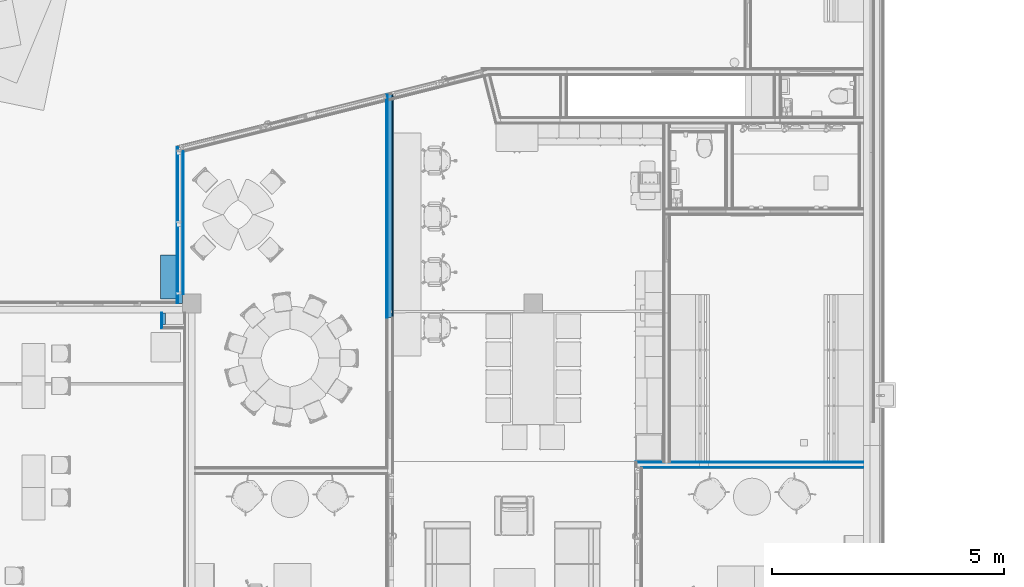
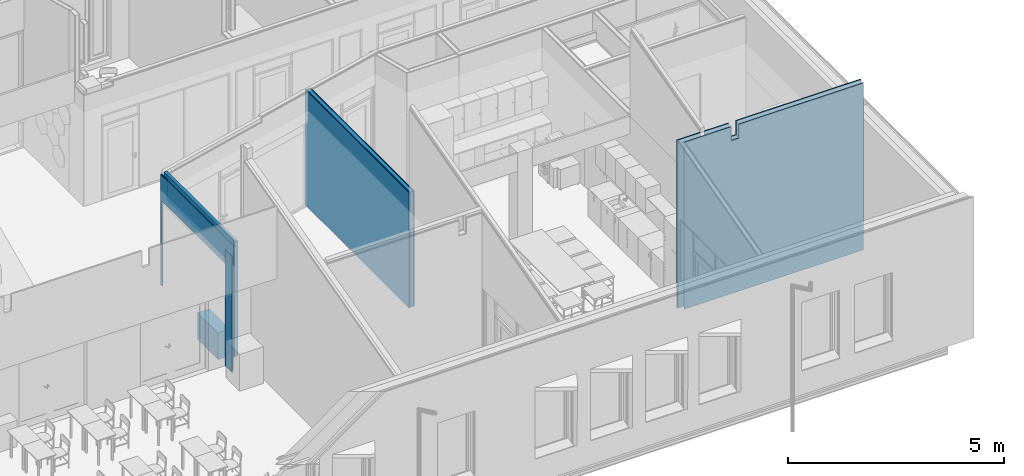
# One storey, part 71 of 153: 16 building element parts, 1 discrete accessory, 1 opening, 4 elements without a shape of their own.
"""IFC2X3 building model written with IfcOpenShell, lengths in millimetres."""

from ifc_helpers import new_model, entity, si_unit, converted_unit, derived_unit, money_unit, direction, frame, origin_with_axes, place, context, subcontext, project, spatial, faceted_brep, material, type_object, element, aggregate, save


model = new_model("IFC2X3")

# Units and contexts
model_context = context("Model", 3, precision=0.01, world=origin_with_axes(), true_north=direction((0.0, 1.0)))
body_context = subcontext(model_context, "Body", "Model", "MODEL_VIEW")
ifc_project = project(units=[si_unit("LENGTHUNIT", "METRE", prefix="MILLI"), si_unit("AREAUNIT", "SQUARE_METRE"), si_unit("VOLUMEUNIT", "CUBIC_METRE"), converted_unit("PLANEANGLEUNIT", "DEGREE", entity("IfcPlaneAngleMeasure", 0.0174532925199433), si_unit("PLANEANGLEUNIT", "RADIAN"), dimensions=[0, 0, 0, 0, 0, 0, 0]), money_unit("EUR"), converted_unit("TIMEUNIT", "Year", entity("IfcTimeMeasure", 31557600.0), si_unit("TIMEUNIT", "SECOND"), dimensions=[0, 0, 1, 0, 0, 0, 0]), si_unit("MASSUNIT", "GRAM", prefix="KILO"), si_unit("THERMODYNAMICTEMPERATUREUNIT", "DEGREE_CELSIUS"), si_unit("LUMINOUSINTENSITYUNIT", "LUMEN"), si_unit("ENERGYUNIT", "JOULE", prefix="MEGA"), derived_unit("THERMALCONDUCTANCEUNIT", [(si_unit("POWERUNIT", "WATT"), 1), (si_unit("LENGTHUNIT", "METRE"), -1), (si_unit("THERMODYNAMICTEMPERATUREUNIT", "KELVIN"), -1)]), derived_unit("SPECIFICHEATCAPACITYUNIT", [(si_unit("ENERGYUNIT", "JOULE"), 1), (si_unit("MASSUNIT", "GRAM", prefix="KILO"), -1), (si_unit("THERMODYNAMICTEMPERATUREUNIT", "KELVIN"), -1)]), derived_unit("MASSDENSITYUNIT", [(si_unit("MASSUNIT", "GRAM", prefix="KILO"), 1), (si_unit("VOLUMEUNIT", "CUBIC_METRE"), -1)])], contexts=[model_context])

# Site, building, storey
site_placement = place(None, frame((0.0, 0.0, 8650.0), z_axis=(0.0, 0.0, 1.0), x_axis=(1.0, 0.0, 0.0)))
site = spatial("IfcSite", under=ifc_project, at=site_placement, Name="43301:001:0844", CompositionType="ELEMENT")
building_placement = place(site_placement, origin_with_axes())
building = spatial("IfcBuilding", under=site, at=building_placement, Name="Kuressaare Ametikooli tuulikute mehaanikute õppekorpus", CompositionType="ELEMENT")
storey_placement = place(building_placement, frame((0.0, 0.0, 4100.0), z_axis=(0.0, 0.0, 1.0), x_axis=(1.0, 0.0, 0.0)))
storey = spatial("IfcBuildingStorey", under=building, at=storey_placement, Name="2.korrus", CompositionType="ELEMENT", Elevation=4100.0)

# Discrete accessory
ifc_material_1 = material(Name="GENEERILINE - KONSTRUKTRIOON")
discrete_accessory_type = type_object("IfcDiscreteAccessoryType", Name="GENEERILINE - KONSTRUKTRIOON 750")
discrete_accessory_placement = place(storey_placement, frame((118215.3831692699, 17618.33463272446, 0.0), z_axis=(0.0, 0.0, 1.0), x_axis=(1.0, 0.0, 0.0)))
element("IfcDiscreteAccessory", 1, at=discrete_accessory_placement, inside=storey, type_object=discrete_accessory_type, material=ifc_material_1, Name="PR2", context=body_context, shape_type="Brep", body=[
    faceted_brep([(0.0, 0.0, 750.0), (0.0, 0.0, 0.0), (-319.9999999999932, 0.0, 0.0), (-319.9999999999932, 0.0, 750.0), (0.0, -949.9999999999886, 750.0), (0.0, -949.9999999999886, 0.0), (-319.9999999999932, -949.9999999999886, 0.0), (-319.9999999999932, -949.9999999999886, 750.0)], [[[0, 1, 2, 3]], [[4, 5, 1, 0]], [[2, 1, 5, 6]], [[3, 2, 6, 7]], [[4, 0, 3, 7]], [[7, 6, 5, 4]]]),
])

# Wall, building element parts
wall_type_1 = type_object("IfcWallType", Name="SS-2.1 147", PredefinedType="NOTDEFINED")
wall_1_placement = place(storey_placement, frame((133024.9464386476, 13171.04672162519, 0.0), z_axis=(0.0, 0.0, 1.0), x_axis=(-1.0, 0.0, 0.0)))
wall_1 = element("IfcWall", 2, at=wall_1_placement, inside=storey, type_object=wall_type_1, Name="Sisesein")
ifc_material_2 = material(Name="Kipsplaat")
building_element_part_1_placement = place(wall_1_placement, origin_with_axes())
building_element_part_1 = element("IfcBuildingElementPart", 3, at=building_element_part_1_placement, material=ifc_material_2, Name="Kipsplaat", context=body_context, shape_type="Brep", body=[
    faceted_brep([(3331.999867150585, 12.9999999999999, 4745.760824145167), (-7.592007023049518e-07, 12.9999999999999, 4745.760704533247), (0.0, 12.9999999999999, 0.0), (4185.955643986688, 12.9999999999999, 0.0), (4185.955643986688, 12.99999999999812, 4745.760854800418), (4172.955643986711, 12.99999999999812, 4745.760854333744), (3531.999867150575, 12.9999999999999, 4745.760831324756), (3531.999867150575, 12.9999999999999, 4351.946018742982), (3331.999867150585, 12.9999999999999, 4351.946018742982), (-7.592859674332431e-07, 25.9999999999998, 4742.277365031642), (3331.999867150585, 25.9999999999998, 4742.277484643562), (0.0, 25.9999999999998, 0.0), (4185.955643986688, 25.9999999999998, 0.0), (4185.955643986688, 25.9999999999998, 4742.277515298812), (3531.999867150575, 25.9999999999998, 4742.277491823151), (3531.999867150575, 25.9999999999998, 4348.462680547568), (3331.999867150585, 25.9999999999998, 4348.462680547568)], [[[0, 1, 2, 3, 4, 5, 6, 7, 8]], [[9, 1, 0, 10]], [[1, 9, 11, 2]], [[2, 11, 12, 3]], [[13, 4, 3, 12]], [[14, 6, 5, 4, 13]], [[6, 14, 15, 7]], [[16, 8, 7, 15]], [[10, 0, 8, 16]], [[9, 10, 16, 15, 14, 13, 12, 11]]]),
    faceted_brep([(4893.955643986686, 12.9999999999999, 4745.760880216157), (4293.955643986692, 12.99999999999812, 4745.760858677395), (4280.955643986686, 12.99999999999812, 4745.760858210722), (4280.955643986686, 12.99999999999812, 0.0), (4893.955643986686, 12.9999999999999, 0.0), (4280.955643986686, 25.9999999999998, 4742.277518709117), (4893.955643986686, 25.9999999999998, 4742.277540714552), (4280.955643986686, 25.9999999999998, 0.0), (4893.955643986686, 25.9999999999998, 0.0)], [[[0, 1, 2, 3, 4]], [[5, 2, 1, 0, 6]], [[2, 5, 7, 3]], [[4, 3, 7, 8]], [[6, 0, 4, 8]], [[5, 6, 8, 7]]]),
])
building_element_part_2_placement = place(wall_1_placement, origin_with_axes())
building_element_part_2 = element("IfcBuildingElementPart", 4, at=building_element_part_2_placement, material=ifc_material_2, Name="Kipsplaat", context=body_context, shape_type="Brep", body=[
    faceted_brep([(3331.999867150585, 0.0, 4749.244163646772), (-7.59143858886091e-07, 0.0, 4749.244044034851), (0.0, 0.0, 0.0), (4172.955643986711, 0.0, 0.0), (4172.955643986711, 0.0, 4749.244193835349), (4159.955649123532, 0.0, 4749.244193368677), (3531.999867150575, 0.0, 4749.24417082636), (3531.999867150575, 0.0, 4355.429356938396), (3331.999867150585, 0.0, 4355.429356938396), (-7.592007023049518e-07, 13.00000000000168, 4745.760704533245), (3331.999867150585, 12.9999999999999, 4745.760824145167), (0.0, 12.9999999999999, 0.0), (4172.955643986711, 12.9999999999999, 0.0), (4172.955643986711, 12.99999999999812, 4745.760854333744), (3531.999867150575, 12.9999999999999, 4745.760831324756), (3531.999867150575, 12.9999999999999, 4351.946018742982), (3331.999867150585, 12.9999999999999, 4351.946018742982)], [[[0, 1, 2, 3, 4, 5, 6, 7, 8]], [[9, 1, 0, 10]], [[1, 9, 11, 2]], [[2, 11, 12, 3]], [[13, 4, 3, 12]], [[14, 6, 5, 4, 13]], [[6, 14, 15, 7]], [[16, 8, 7, 15]], [[10, 0, 8, 16]], [[9, 10, 16, 15, 14, 13, 12, 11]]]),
    faceted_brep([(4906.955643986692, 0.0, 4749.244220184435), (4306.955643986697, 0.0, 4749.244198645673), (4293.955643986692, 0.0, 4749.244198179), (4293.955643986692, 0.0, 0.0), (4906.955643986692, 0.0, 0.0), (4293.955643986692, 12.99999999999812, 4745.760858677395), (4906.955643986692, 12.9999999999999, 4745.76088068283), (4293.955643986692, 12.9999999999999, 0.0), (4906.955643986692, 12.9999999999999, 0.0)], [[[0, 1, 2, 3, 4]], [[5, 2, 1, 0, 6]], [[2, 5, 7, 3]], [[4, 3, 7, 8]], [[6, 0, 4, 8]], [[5, 6, 8, 7]]]),
])
building_element_part_3_placement = place(wall_1_placement, origin_with_axes())
building_element_part_3 = element("IfcBuildingElementPart", 5, at=building_element_part_3_placement, material=ifc_material_2, Name="Kipsplaat", context=body_context, shape_type="Brep", body=[
    faceted_brep([(3331.999867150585, 121.0000000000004, 4716.822311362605), (-7.598544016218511e-07, 121.0000000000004, 4716.822191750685), (0.0, 121.0000000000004, 0.0), (4785.955643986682, 121.0000000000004, 0.0), (4785.955643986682, 121.0000000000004, 4716.822363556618), (3531.999867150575, 121.0000000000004, 4716.822318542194), (3531.999867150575, 121.0000000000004, 4323.007516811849), (3331.999867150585, 121.0000000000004, 4323.007516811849), (-7.599396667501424e-07, 134.0000000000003, 4713.338852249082), (3331.999867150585, 134.0000000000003, 4713.338971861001), (0.0, 134.0000000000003, 0.0), (4785.955643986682, 134.0000000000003, 0.0), (4785.955643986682, 134.0000000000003, 4713.339024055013), (3531.999867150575, 134.0000000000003, 4713.338979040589), (3531.999867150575, 134.0000000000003, 4319.524178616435), (3331.999867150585, 134.0000000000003, 4319.524178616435)], [[[0, 1, 2, 3, 4, 5, 6, 7]], [[8, 1, 0, 9]], [[1, 8, 10, 2]], [[11, 3, 2, 10]], [[12, 4, 3, 11]], [[13, 5, 4, 12]], [[5, 13, 14, 6]], [[15, 7, 6, 14]], [[9, 0, 7, 15]], [[8, 9, 15, 14, 13, 12, 11, 10]]]),
])
aggregate(wall_1, [building_element_part_1, building_element_part_2, building_element_part_3])

wall_type_2 = type_object("IfcWallType", Name="SS-2.2 147", PredefinedType="NOTDEFINED")
wall_2_placement = place(storey_placement, frame((122757.3962682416, 16269.05391532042, 0.0), z_axis=(0.0, 0.0, 1.0), x_axis=(0.0, 1.0, 0.0)))
wall_2 = element("IfcWall", 6, at=wall_2_placement, inside=storey, type_object=wall_type_2, Name="Sisesein")
building_element_part_4_placement = place(wall_2_placement, origin_with_axes())
building_element_part_4 = element("IfcBuildingElementPart", 7, at=building_element_part_4_placement, material=ifc_material_2, Name="Kipsplaat", context=body_context, shape_type="Brep", body=[
    faceted_brep([(4800.431695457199, -13.00000000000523, 0.0), (4800.431695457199, -25.99999999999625, 0.0), (0.0, -25.99999999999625, 0.0), (0.0, -13.00000000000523, 0.0), (4800.431695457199, -13.00000000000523, 3259.999999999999), (4800.431695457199, -25.99999999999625, 3259.999999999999), (0.0, -25.99999999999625, 3259.999999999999), (0.0, -13.00000000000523, 3259.999999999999)], [[[0, 1, 2, 3]], [[0, 4, 5, 1]], [[1, 5, 6, 2]], [[3, 2, 6, 7]], [[4, 0, 3, 7]], [[5, 4, 7, 6]]]),
])
building_element_part_5_placement = place(wall_2_placement, origin_with_axes())
building_element_part_5 = element("IfcBuildingElementPart", 8, at=building_element_part_5_placement, material=ifc_material_2, Name="Kipsplaat", context=body_context, shape_type="Brep", body=[
    faceted_brep([(4800.431695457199, 0.0, 0.0), (4800.431695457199, -13.00000000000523, 0.0), (0.0, -13.00000000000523, 0.0), (0.0, 0.0, 0.0), (4800.431695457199, 0.0, 3259.999999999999), (4800.431695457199, -13.00000000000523, 3259.999999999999), (0.0, -13.00000000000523, 3259.999999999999), (0.0, 0.0, 3259.999999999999)], [[[0, 1, 2, 3]], [[0, 4, 5, 1]], [[1, 5, 6, 2]], [[3, 2, 6, 7]], [[4, 0, 3, 7]], [[5, 4, 7, 6]]]),
])
ifc_material_3 = material(Name="Soojustus - Mineraalvill pehme")
building_element_part_6_placement = place(wall_2_placement, origin_with_axes())
building_element_part_6 = element("IfcBuildingElementPart", 9, at=building_element_part_6_placement, material=ifc_material_3, Name="Soojustus - Mineraalvill pehme", context=body_context, shape_type="Brep", body=[
    faceted_brep([(0.0, -120.9999999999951, 0.0), (4800.431695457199, -120.9999999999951, 0.0), (4800.431695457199, -120.9999999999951, 3259.999999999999), (0.0, -120.9999999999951, 3259.999999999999), (104.9929596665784, -120.9999999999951, 2700.0), (104.9929596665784, -120.9999999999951, 2750.0), (4691.606734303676, -120.9999999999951, 2750.0), (4691.606734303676, -120.9999999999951, 2700.0), (0.0, -25.99999999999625, 0.0), (4800.431695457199, -25.99999999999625, 0.0), (4800.431695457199, -25.99999999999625, 3259.999999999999), (0.0, -25.99999999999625, 3259.999999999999), (104.9929596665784, -97.55030325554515, 2700.0), (104.9929596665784, -97.55030325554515, 2750.0), (4685.729214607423, -97.55030325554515, 2750.0), (4685.729214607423, -97.55030325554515, 2700.0)], [[[0, 1, 2, 3], [4, 5, 6, 7]], [[8, 9, 1, 0]], [[1, 9, 10, 2]], [[3, 2, 10, 11]], [[11, 8, 0, 3]], [[5, 4, 12, 13]], [[6, 5, 13, 14]], [[7, 6, 14, 15]], [[4, 7, 15, 12]], [[11, 10, 9, 8]], [[15, 14, 13, 12]]]),
])
building_element_part_7_placement = place(wall_2_placement, origin_with_axes())
building_element_part_7 = element("IfcBuildingElementPart", 10, at=building_element_part_7_placement, material=ifc_material_2, Name="Kipsplaat", context=body_context, shape_type="Brep", body=[
    faceted_brep([(0.0, -120.9999999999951, 3259.999999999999), (4800.431695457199, -120.9999999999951, 3259.999999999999), (4800.431695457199, -120.9999999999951, 0.0), (0.0, -120.9999999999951, 0.0), (104.9929596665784, -120.9999999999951, 2700.0), (4691.606734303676, -120.9999999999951, 2700.0), (4691.606734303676, -120.9999999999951, 2750.0), (104.9929596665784, -120.9999999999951, 2750.0), (0.0, -134.0000000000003, 3259.999999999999), (4800.431695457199, -134.0000000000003, 3259.999999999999), (4800.431695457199, -134.0000000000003, 0.0), (0.0, -134.0000000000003, 0.0), (104.9929596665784, -134.0000000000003, 2700.0), (4694.865102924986, -134.0000000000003, 2700.0), (4694.865102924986, -134.0000000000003, 2750.0), (104.9929596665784, -134.0000000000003, 2750.0)], [[[0, 1, 2, 3], [4, 5, 6, 7]], [[8, 9, 1, 0]], [[10, 2, 1, 9]], [[3, 2, 10, 11]], [[0, 3, 11, 8]], [[12, 13, 5, 4]], [[13, 14, 6, 5]], [[14, 15, 7, 6]], [[15, 12, 4, 7]], [[11, 10, 9, 8], [12, 15, 14, 13]]]),
])
building_element_part_8_placement = place(wall_2_placement, origin_with_axes())
building_element_part_8 = element("IfcBuildingElementPart", 11, at=building_element_part_8_placement, material=ifc_material_2, Name="Kipsplaat", context=body_context, shape_type="Brep", body=[
    faceted_brep([(0.0, -134.0000000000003, 3259.999999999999), (4800.431695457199, -134.0000000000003, 3259.999999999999), (4800.431695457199, -134.0000000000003, 0.0), (0.0, -134.0000000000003, 0.0), (104.9929596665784, -134.0000000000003, 2700.0), (4694.865102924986, -134.0000000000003, 2700.0), (4694.865102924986, -134.0000000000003, 2750.0), (104.9929596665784, -134.0000000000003, 2750.0), (0.0, -147.0000000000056, 3259.999999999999), (4800.431695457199, -147.0000000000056, 3259.999999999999), (4800.431695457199, -147.0000000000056, 0.0), (0.0, -147.0000000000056, 0.0), (104.9929596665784, -147.0000000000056, 2700.0), (4698.123471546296, -147.0000000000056, 2700.0), (4698.123471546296, -147.0000000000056, 2750.0), (104.9929596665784, -147.0000000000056, 2750.0)], [[[0, 1, 2, 3], [4, 5, 6, 7]], [[8, 9, 1, 0]], [[10, 2, 1, 9]], [[3, 2, 10, 11]], [[0, 3, 11, 8]], [[12, 13, 5, 4]], [[13, 14, 6, 5]], [[14, 15, 7, 6]], [[15, 12, 4, 7]], [[11, 10, 9, 8], [12, 15, 14, 13]]]),
])
aggregate(wall_2, [building_element_part_4, building_element_part_5, building_element_part_6, building_element_part_7, building_element_part_8])

wall_type_3 = type_object("IfcWallType", Name="SS-2.4 92", PredefinedType="NOTDEFINED")
wall_3_placement = place(storey_placement, frame((117996.9466721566, 16124.04684020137, 0.0), z_axis=(0.0, 0.0, 1.0), x_axis=(-1.41804045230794e-07, 0.99999999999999, 0.0)))
wall_3 = element("IfcWall", 12, at=wall_3_placement, inside=storey, type_object=wall_type_3, Name="Sisesein")
ifc_material_4 = material(Name="Plaster - Gypsum")
building_element_part_9_placement = place(wall_3_placement, origin_with_axes())
building_element_part_9 = element("IfcBuildingElementPart", 13, at=building_element_part_9_placement, material=ifc_material_4, Name="Plaster - Gypsum", context=body_context, shape_type="Brep", body=[
    faceted_brep([(250.0039851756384, 92.00000000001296, 0.0), (-78.99998695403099, 91.99999999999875, 0.0), (-78.99998695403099, 91.99999999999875, 3274.25570377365), (250.0000478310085, 91.99999999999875, 3274.255703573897), (250.0039851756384, 91.99999999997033, 3240.0), (250.0039850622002, 79.00000000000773, 0.0), (-78.99998879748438, 79.00000000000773, 0.0), (-78.99998879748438, 78.99999999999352, 3274.25570377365), (250.0000459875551, 78.99999999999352, 3274.255703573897), (250.0039850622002, 78.99999999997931, 3240.0)], [[[0, 1, 2, 3, 4]], [[1, 0, 5, 6]], [[2, 1, 6, 7]], [[3, 2, 7, 8]], [[4, 3, 8, 9]], [[0, 4, 9, 5]], [[8, 7, 6, 5, 9]]]),
])
ifc_material_5 = material(Name="Air Space - Frame")
building_element_part_10_placement = place(wall_3_placement, origin_with_axes())
building_element_part_10 = element("IfcBuildingElementPart", 14, at=building_element_part_10_placement, material=ifc_material_5, Name="Air Space - Frame", context=body_context, shape_type="Brep", body=[
    faceted_brep([(250.0039849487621, 66.0000000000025, 0.0), (9.359066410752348e-06, 66.0000000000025, 0.0), (9.359066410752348e-06, 66.0000000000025, 3274.255703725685), (250.0000441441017, 66.0000000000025, 3274.255703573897), (250.0039849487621, 65.99999999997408, 3240.0), (250.0039843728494, 0.0, 0.0), (0.0, 0.0, 0.0), (0.0, 0.0, 3274.255703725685), (250.0000347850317, 0.0, 3274.255703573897), (250.0039843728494, 0.0, 3240.0)], [[[0, 1, 2, 3, 4]], [[1, 0, 5, 6]], [[2, 1, 6, 7]], [[3, 2, 7, 8]], [[4, 3, 8, 9]], [[0, 4, 9, 5]], [[8, 7, 6, 5, 9]]]),
])
ifc_material_6 = material(Name="Plywood")
building_element_part_11_placement = place(wall_3_placement, origin_with_axes())
building_element_part_11 = element("IfcBuildingElementPart", 15, at=building_element_part_11_placement, material=ifc_material_6, Name="Plywood", context=body_context, shape_type="Brep", body=[
    faceted_brep([(250.0039850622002, 79.00000000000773, 0.0), (-65.9999887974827, 79.00000000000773, 0.0), (-65.9999887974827, 78.99999999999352, 3274.255703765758), (250.0000459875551, 78.99999999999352, 3274.255703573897), (250.0039850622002, 78.99999999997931, 3240.0), (250.0039849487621, 66.0000000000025, 0.0), (-65.99999064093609, 66.0000000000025, 0.0), (-65.99999064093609, 66.0000000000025, 3274.255703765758), (250.0000441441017, 66.0000000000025, 3274.255703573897), (250.0039849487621, 65.99999999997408, 3240.0)], [[[0, 1, 2, 3, 4]], [[1, 0, 5, 6]], [[2, 1, 6, 7]], [[3, 2, 7, 8]], [[4, 3, 8, 9]], [[0, 4, 9, 5]], [[8, 7, 6, 5, 9]]]),
])
aggregate(wall_3, [building_element_part_9, building_element_part_10, building_element_part_11])

# Wall, opening, building element parts
wall_4_placement = place(storey_placement, frame((118393.9466433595, 16574.04687498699, 0.0), z_axis=(0.0, 0.0, 1.0), x_axis=(0.0, 1.0, 0.0)))
wall_4 = element("IfcWall", 16, at=wall_4_placement, inside=storey, type_object=wall_type_2, Name="Sisesein")
opening_placement = place(wall_4_placement, frame((1753.435496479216, 0.0, 0.0), z_axis=(0.0, 0.0, 1.0), x_axis=(1.0, 0.0, 0.0)))
element("IfcOpeningElement", 17, at=opening_placement, cuts=wall_4, Name="ava", context=body_context, shape_type="Brep", body=[
    faceted_brep([(-1553.435496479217, 147.0000000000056, 2410.0), (1553.435496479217, 147.0000000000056, 2410.0), (1553.435496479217, 148.0000000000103, 2410.0), (-1553.435496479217, 148.0000000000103, 2410.0), (-1553.435496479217, -1.000000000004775, 2410.0), (1508.398762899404, -1.000000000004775, 2410.0), (1553.435496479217, 56.71801784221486, 2410.0), (1553.435496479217, 147.0000000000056, 0.0), (1553.435496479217, 148.0000000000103, 0.0), (-1553.435496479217, 148.0000000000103, 0.0), (-1553.435496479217, 147.0000000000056, 0.0), (-1553.435496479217, -1.000000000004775, 0.0), (1508.398762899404, -1.000000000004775, 0.0), (1553.435496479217, 56.71801784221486, 0.0)], [[[0, 1, 2, 3]], [[1, 0, 4, 5, 6]], [[1, 7, 8, 2]], [[8, 9, 3, 2]], [[10, 0, 3, 9]], [[0, 10, 11, 4]], [[4, 11, 12, 5]], [[5, 12, 13, 6]], [[7, 1, 6, 13]], [[7, 10, 9, 8]], [[10, 7, 13, 12, 11]]]),
])
building_element_part_12_placement = place(wall_4_placement, origin_with_axes())
building_element_part_12 = element("IfcBuildingElementPart", 18, at=building_element_part_12_placement, material=ifc_material_2, Name="Kipsplaat", context=body_context, shape_type="Brep", body=[
    faceted_brep([(199.9999999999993, 120.9999999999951, 0.0), (199.9999999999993, 120.9999999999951, 2410.0), (3306.870992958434, 120.9999999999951, 2410.0), (3306.870992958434, 120.9999999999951, 0.0), (3357.029515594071, 120.9999999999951, 0.0), (3357.029515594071, 120.9999999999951, 3145.0), (0.0, 120.9999999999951, 3145.0), (0.0, 120.9999999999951, 0.0), (199.9999999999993, 134.0000000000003, 0.0), (199.9999999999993, 134.0000000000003, 2410.0), (3306.870992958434, 134.0000000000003, 2410.0), (3306.870992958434, 134.0000000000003, 0.0), (3353.771146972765, 134.0000000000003, 0.0), (3353.771146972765, 134.0000000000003, 3145.0), (0.0, 134.0000000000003, 3145.0), (0.0, 134.0000000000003, 0.0)], [[[0, 1, 2, 3, 4, 5, 6, 7]], [[1, 0, 8, 9]], [[2, 1, 9, 10]], [[3, 2, 10, 11]], [[3, 11, 12, 4]], [[12, 13, 5, 4]], [[14, 6, 5, 13]], [[7, 6, 14, 15]], [[8, 0, 7, 15]], [[9, 8, 15, 14, 13, 12, 11, 10]]]),
])
building_element_part_13_placement = place(wall_4_placement, origin_with_axes())
building_element_part_13 = element("IfcBuildingElementPart", 19, at=building_element_part_13_placement, material=ifc_material_2, Name="Kipsplaat", context=body_context, shape_type="Brep", body=[
    faceted_brep([(199.9999999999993, 134.0000000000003, 0.0), (199.9999999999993, 134.0000000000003, 2410.0), (3306.870992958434, 134.0000000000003, 2410.0), (3306.870992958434, 134.0000000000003, 0.0), (3367.173272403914, 134.0000000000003, 0.0), (3367.173272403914, 134.0000000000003, 3129.999999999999), (0.0, 134.0000000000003, 3129.999999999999), (0.0, 134.0000000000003, 0.0), (199.9999999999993, 147.0000000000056, 0.0), (199.9999999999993, 147.0000000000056, 2410.0), (3306.870992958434, 147.0000000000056, 2410.0), (3306.870992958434, 147.0000000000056, 0.0), (3363.914903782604, 147.0000000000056, 0.0), (3363.914903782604, 147.0000000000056, 3129.999999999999), (0.0, 147.0000000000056, 3129.999999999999), (0.0, 147.0000000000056, 0.0)], [[[0, 1, 2, 3, 4, 5, 6, 7]], [[1, 0, 8, 9]], [[2, 1, 9, 10]], [[3, 2, 10, 11]], [[3, 11, 12, 4]], [[12, 13, 5, 4]], [[14, 6, 5, 13]], [[7, 6, 14, 15]], [[8, 0, 7, 15]], [[9, 8, 15, 14, 13, 12, 11, 10]]]),
])
building_element_part_14_placement = place(wall_4_placement, origin_with_axes())
building_element_part_14 = element("IfcBuildingElementPart", 20, at=building_element_part_14_placement, material=ifc_material_2, Name="Kipsplaat", context=body_context, shape_type="Brep", body=[
    faceted_brep([(199.9999999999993, 13.00000000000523, 2410.0), (3272.758305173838, 12.99999999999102, 2410.0), (3272.758305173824, 13.00000000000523, 3145.0), (199.9999999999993, 13.00000000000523, 3145.0), (3269.49993655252, 25.99999999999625, 2410.0), (199.9999999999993, 25.99999999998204, 2410.0), (3269.49993655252, 25.99999999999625, 3145.0), (199.9999999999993, 25.99999999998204, 3145.0)], [[[0, 1, 2, 3]], [[4, 1, 0, 5]], [[1, 4, 6, 2]], [[6, 7, 3, 2]], [[5, 0, 3, 7]], [[4, 5, 7, 6]]]),
])
building_element_part_15_placement = place(wall_4_placement, origin_with_axes())
building_element_part_15 = element("IfcBuildingElementPart", 21, at=building_element_part_15_placement, material=ifc_material_2, Name="Kipsplaat", context=body_context, shape_type="Brep", body=[
    faceted_brep([(199.9999999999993, 0.0, 2410.0), (3262.614548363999, 0.0, 2410.0), (3262.614548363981, 0.0, 3129.999999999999), (199.9999999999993, 0.0, 3129.999999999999), (3259.356179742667, 13.00000000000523, 2410.0), (199.9999999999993, 13.00000000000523, 2410.0), (3259.356179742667, 13.00000000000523, 3129.999999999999), (199.9999999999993, 13.00000000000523, 3129.999999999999)], [[[0, 1, 2, 3]], [[4, 1, 0, 5]], [[1, 4, 6, 2]], [[6, 7, 3, 2]], [[5, 0, 3, 7]], [[4, 5, 7, 6]]]),
])
building_element_part_16_placement = place(wall_4_placement, origin_with_axes())
building_element_part_16 = element("IfcBuildingElementPart", 22, at=building_element_part_16_placement, material=ifc_material_3, Name="Soojustus - Mineraalvill pehme", context=body_context, shape_type="Brep", body=[
    faceted_brep([(199.9999999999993, 25.99999999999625, 3.000000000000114), (199.9999999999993, 25.99999999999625, 2410.0), (3282.902061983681, 25.99999999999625, 2410.0), (3282.902061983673, 25.99999999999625, 3240.0), (0.0, 25.99999999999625, 3240.0), (0.0, 25.99999999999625, 0.0), (199.9999999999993, 25.99999999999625, 0.0), (199.9999999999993, 57.00000000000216, 3.000000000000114), (199.9999999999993, 57.00000000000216, 0.0), (199.9999999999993, 120.9999999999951, 0.0), (199.9999999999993, 120.9999999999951, 2410.0), (3259.090906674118, 120.9999999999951, 2410.0), (3259.090906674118, 120.9999999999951, 3240.0), (0.0, 120.9999999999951, 3240.0), (0.0, 120.9999999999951, 0.0)], [[[0, 1, 2, 3, 4, 5, 6]], [[1, 0, 7, 8, 9, 10]], [[11, 2, 1, 10]], [[2, 11, 12, 3]], [[12, 13, 4, 3]], [[14, 5, 4, 13]], [[9, 8, 6, 5, 14]], [[7, 0, 6, 8]], [[10, 9, 14, 13, 12, 11]]]),
])
aggregate(wall_4, [building_element_part_12, building_element_part_13, building_element_part_14, building_element_part_15, building_element_part_16])

save(model, "model.ifc")
